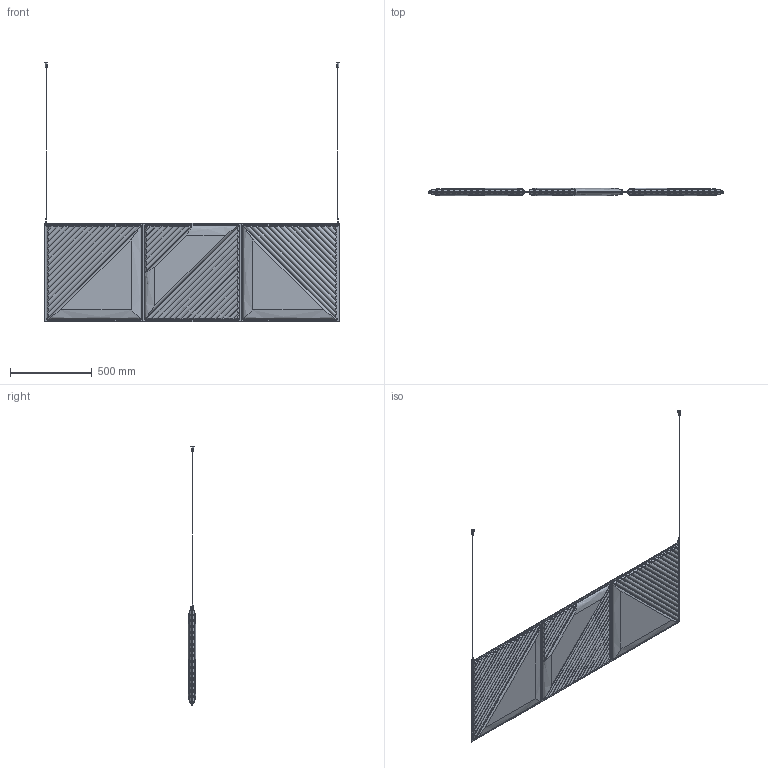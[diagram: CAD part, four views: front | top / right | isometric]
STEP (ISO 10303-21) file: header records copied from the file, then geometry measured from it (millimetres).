
FILE_DESCRIPTION(/* description */ (''),/* implementation_level */ '2;1');
FILE_NAME(/* name */ 'B3',/* time_stamp */ '2022-12-22T15:30:34+01:00',/* author */ (''),/* organization */ (''),/* preprocessor_version */ 'ST-DEVELOPER v16.5',/* originating_system */ 'Rhino 7.22',/* authorisation */ '');
FILE_SCHEMA (('CONFIG_CONTROL_DESIGN'));
Length unit declared in the file: millimetre
Products named in the file (1): Document
Bounding box: 1805.63 x 45 x 1584.86 mm (x, y, z)
Volume: 32057938.4 mm3; surface area: 6783670.5 mm2
Topology: 11 solids, 11 shells, 496 faces, 1290 edges, 824 vertices
Faces by surface type: cylinder 212, bspline 208, plane 76
Entity records: 26598 total; most frequent: CARTESIAN_POINT 18384, ORIENTED_EDGE 2580, EDGE_CURVE 1290, B_SPLINE_CURVE_WITH_KNOTS 868, VERTEX_POINT 824, EDGE_LOOP 516, ADVANCED_FACE 496, FACE_OUTER_BOUND 496
